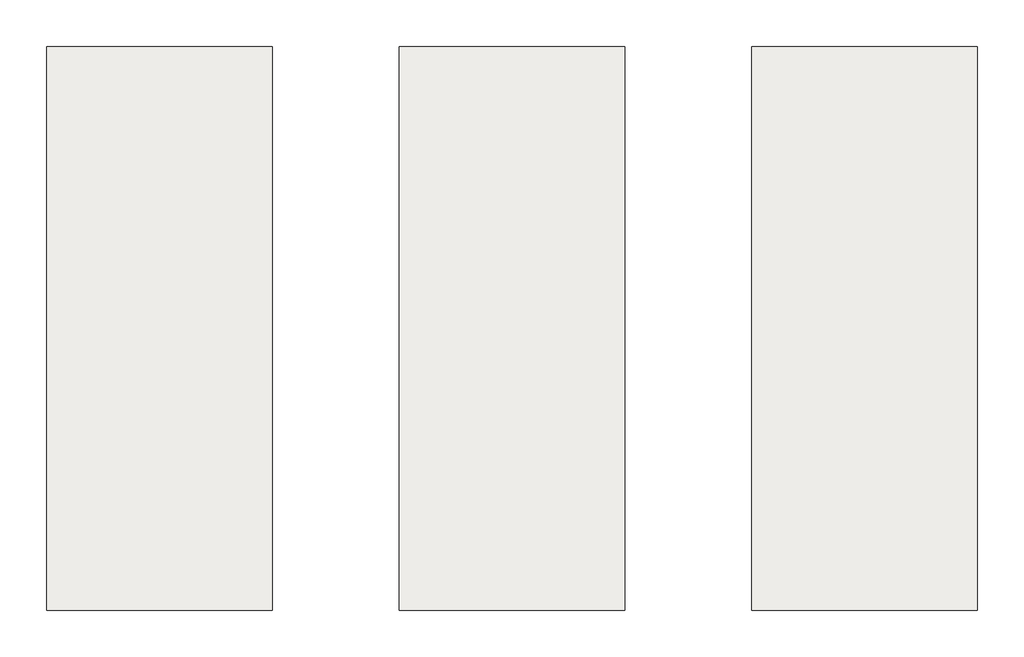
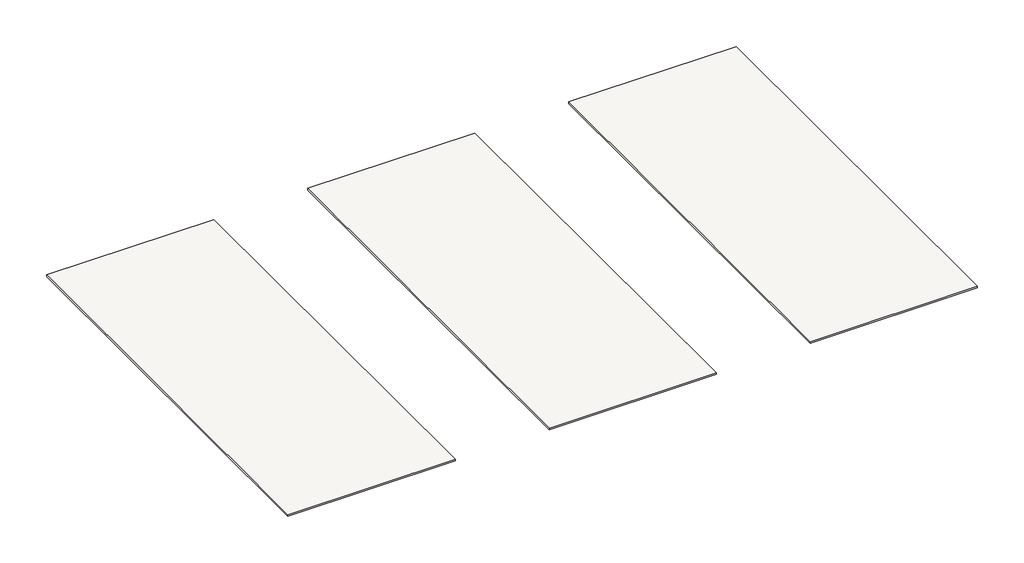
# One storey: 3 roofs.
"""IFC4 building model written with IfcOpenShell, lengths in millimetres."""

import ifcopenshell
import ifcopenshell.guid

model = None  # the IFC model being written
_history = None  # IfcOwnerHistory: only IFC2X3 demands one
_inside = {}  # id of a spatial element -> (the spatial element, [elements in it])
_under = {}  # id of a project, library or spatial element -> (it, [spatial elements below it])
_declared = {}  # id of a project -> (the project, [libraries it declares])
_typed = {}  # id of a type object -> (the type object, [elements of that type])
_made_of = {}  # id of a material, layer set ... -> (it, [elements and type objects made of it])


def new_model(schema):
    """Start an empty IFC model of exactly this schema.

    Asked for "IFC4X3", IfcOpenShell would pick the latest addendum, in which some entities
    have other attributes; the version numbers below select the first issue.
    IFC2X3 requires an IfcOwnerHistory on every rooted entity: one is made here for all.
    """
    global model, _history
    if schema == "IFC4X3":
        model = ifcopenshell.file(schema_version=(4, 3, 0, 0))
    else:
        model = ifcopenshell.file(schema=schema)
    _inside.clear()
    _under.clear()
    _declared.clear()
    _typed.clear()
    _made_of.clear()
    _history = None
    if model.schema == "IFC2X3":
        org = make("IfcOrganization", Name="unknown")
        user = make(
            "IfcPersonAndOrganization",
            ThePerson=make("IfcPerson", FamilyName="unknown"),
            TheOrganization=org,
        )
        app = make(
            "IfcApplication",
            ApplicationDeveloper=org,
            Version="unknown",
            ApplicationFullName="unknown",
            ApplicationIdentifier="unknown",
        )
        _history = make(
            "IfcOwnerHistory",
            OwningUser=user,
            OwningApplication=app,
            ChangeAction="ADDED",
            CreationDate=0,
        )
    return model


def make(cls, **values):
    """One entity of the class cls with the attributes given. An attribute that is None is left unset."""
    return model.create_entity(
        cls, **{name: value for name, value in values.items() if value is not None}
    )


def rooted(cls, **values):
    """An entity with a GlobalId (a new one), such as an element, a storey or a relation."""
    return make(cls, GlobalId=ifcopenshell.guid.new(), OwnerHistory=_history, **values)


def si_unit(unit_type, name, prefix=None):
    """IfcSIUnit, for example si_unit("LENGTHUNIT", "METRE", prefix="MILLI")."""
    return make("IfcSIUnit", UnitType=unit_type, Prefix=prefix, Name=name)


def assignment(units):
    """IfcUnitAssignment: the units of a project."""
    return None if units is None else make("IfcUnitAssignment", Units=units)


def point(xyz):
    """IfcCartesianPoint."""
    return None if xyz is None else make("IfcCartesianPoint", Coordinates=xyz)


def direction(xyz):
    """IfcDirection."""
    return None if xyz is None else make("IfcDirection", DirectionRatios=xyz)


def frame(location, z_axis=None, x_axis=None):
    """IfcAxis2Placement3D, a coordinate frame: its origin and axes. An axis left out is left unset."""
    return make(
        "IfcAxis2Placement3D",
        Location=point(location),
        Axis=direction(z_axis),
        RefDirection=direction(x_axis),
    )


def origin():
    """The frame at (0, 0, 0) with its axes left unset."""
    return frame((0.0, 0.0, 0.0))


def place(relative_to, where):
    """IfcLocalPlacement: puts the frame where relative to a parent placement (None: the world)."""
    return make(
        "IfcLocalPlacement", PlacementRelTo=relative_to, RelativePlacement=where
    )


def context(
    kind, dimensions, precision=None, world=None, true_north=None, identifier=None
):
    """IfcGeometricRepresentationContext, for example the 3D "Model" context."""
    return make(
        "IfcGeometricRepresentationContext",
        ContextIdentifier=identifier,
        ContextType=kind,
        CoordinateSpaceDimension=dimensions,
        Precision=precision,
        WorldCoordinateSystem=world,
        TrueNorth=true_north,
    )


def project(units=None, contexts=None):
    """IfcProject with its units and contexts."""
    return rooted(
        "IfcProject",
        Name="project",
        RepresentationContexts=contexts,
        UnitsInContext=assignment(units),
    )


def spatial(cls, under=None, at=None, **own):
    """A site, building, storey or space (cls), placed at a placement, below another one or the project."""
    s = rooted(cls, ObjectPlacement=at, **own)
    if under is not None:
        _under.setdefault(under.id(), (under, []))[1].append(s)
    return s


def polyline(points):
    """IfcPolyline through the points."""
    return make("IfcPolyline", Points=[point(p) for p in points])


def outline(outer, holes=None, kind="AREA"):
    """IfcArbitraryClosedProfileDef: a profile drawn as a closed curve; with holes, ...WithVoids."""
    if holes is None:
        return make("IfcArbitraryClosedProfileDef", ProfileType=kind, OuterCurve=outer)
    return make(
        "IfcArbitraryProfileDefWithVoids",
        ProfileType=kind,
        OuterCurve=outer,
        InnerCurves=holes,
    )


def extrude(swept, where, along, depth):
    """IfcExtrudedAreaSolid: the profile swept, set in the frame where, extruded along a direction by depth."""
    return make(
        "IfcExtrudedAreaSolid",
        SweptArea=swept,
        Position=where,
        ExtrudedDirection=direction(along),
        Depth=depth,
    )


def shape(context_of_items, identifier, shape_type, items):
    """IfcShapeRepresentation: the items that make up one representation, for example the "Body"."""
    return make(
        "IfcShapeRepresentation",
        ContextOfItems=context_of_items,
        RepresentationIdentifier=identifier,
        RepresentationType=shape_type,
        Items=items,
    )


def made_of(thing, what):
    """Note that an element or type object is made of a material, layer set ...; save() writes the relation."""
    if what is not None:
        _made_of.setdefault(what.id(), (what, []))[1].append(thing)
    return thing


def element(
    cls,
    number,
    at=None,
    inside=None,
    cuts=None,
    type_object=None,
    material=None,
    context=None,
    identifier="Body",
    shape_type=None,
    held_by="IfcProductDefinitionShape",
    body=None,
    shapes=None,
    **own,
):
    """One element of the class cls, such as IfcWall. Its Tag is "e" and its number.

    at: its placement. inside: the storey or other place that contains it. cuts: it is an
    opening in that element (IfcRelVoidsElement). A single representation is given by context,
    identifier, shape_type and body (its items); several are given by shapes. held_by: the class
    of the entity that holds the representations. save() writes the other relations.
    """
    e = rooted(cls, Tag="e%d" % number, ObjectPlacement=at, **own)
    if body is not None:
        shapes = [shape(context, identifier, shape_type, body)]
    if shapes is not None:
        e.Representation = make(held_by, Representations=shapes)
    if inside is not None:
        _inside.setdefault(inside.id(), (inside, []))[1].append(e)
    if cuts is not None:
        rooted(
            "IfcRelVoidsElement", RelatingBuildingElement=cuts, RelatedOpeningElement=e
        )
    if type_object is not None:
        _typed.setdefault(type_object.id(), (type_object, []))[1].append(e)
    return made_of(e, material)


def aggregate(whole, parts):
    """IfcRelAggregates: a whole, such as a stair, and the parts it consists of."""
    return rooted("IfcRelAggregates", RelatingObject=whole, RelatedObjects=parts)


def save(model, path):
    """Write the relations noted so far, then the file.

    IfcRelAggregates (storeys below a building ...), IfcRelContainedInSpatialStructure (elements
    in a storey), IfcRelDefinesByType, IfcRelAssociatesMaterial and IfcRelDeclares: one each for
    every whole, place, type object, material and project.
    """
    for whole, parts in _under.values():
        aggregate(whole, parts)
    for where, things in _inside.values():
        rooted(
            "IfcRelContainedInSpatialStructure",
            RelatedElements=things,
            RelatingStructure=where,
        )
    for kind, things in _typed.values():
        rooted("IfcRelDefinesByType", RelatedObjects=things, RelatingType=kind)
    for what, things in _made_of.values():
        rooted("IfcRelAssociatesMaterial", RelatedObjects=things, RelatingMaterial=what)
    for by, libraries in _declared.values():
        rooted("IfcRelDeclares", RelatingContext=by, RelatedDefinitions=libraries)
    model.write(path)


model = new_model("IFC4")

# Units and contexts
model_context = context("Model", 3, world=origin())
ifc_project = project(units=[si_unit("LENGTHUNIT", "METRE", prefix="MILLI")], contexts=[model_context])

# Site, building, storey
site = spatial("IfcSite", under=ifc_project)
building = spatial("IfcBuilding", under=site)
storey = spatial("IfcBuildingStorey", under=building, Name="RENDERED VIEW", Elevation=3048.0)

# Roofs
placement = place(None, origin())
element("IfcRoof", 1, ObjectType="Field Lok FLM125", at=placement, inside=storey, context=model_context, shape_type="SweptSolid", body=[
    extrude(outline(polyline([(-57922.7382533, 26604.8089762), (-55484.3382533, 26604.8089762), (-55484.3382533, 20508.8089762), (-57922.7382533, 20508.8089762), (-57922.7382533, 26604.8089762)])), frame((0.0, 0.0, 3048.0), z_axis=(0.0, 0.0, 1.0), x_axis=(1.0, 0.0, 0.0)), (0.0, 0.0, 1.0), 25.4),
])
element("IfcRoof", 2, ObjectType="Field Lok FLM165", at=placement, inside=storey, context=model_context, shape_type="SweptSolid", body=[
    extrude(outline(polyline([(-54112.7382533, 26604.8089762), (-51674.3382533, 26604.8089762), (-51674.3382533, 20508.8089762), (-54112.7382533, 20508.8089762), (-54112.7382533, 26604.8089762)])), frame((0.0, 0.0, 3048.0), z_axis=(0.0, 0.0, 1.0), x_axis=(1.0, 0.0, 0.0)), (0.0, 0.0, 1.0), 25.4),
])
element("IfcRoof", 3, ObjectType="Field Lok FLM207", at=placement, inside=storey, context=model_context, shape_type="SweptSolid", body=[
    extrude(outline(polyline([(-50302.7382533, 26604.8089762), (-47864.3382533, 26604.8089762), (-47864.3382533, 20508.8089762), (-50302.7382533, 20508.8089762), (-50302.7382533, 26604.8089762)])), frame((0.0, 0.0, 3048.0), z_axis=(0.0, 0.0, 1.0), x_axis=(1.0, 0.0, 0.0)), (0.0, 0.0, 1.0), 25.4),
])

save(model, "model.ifc")
